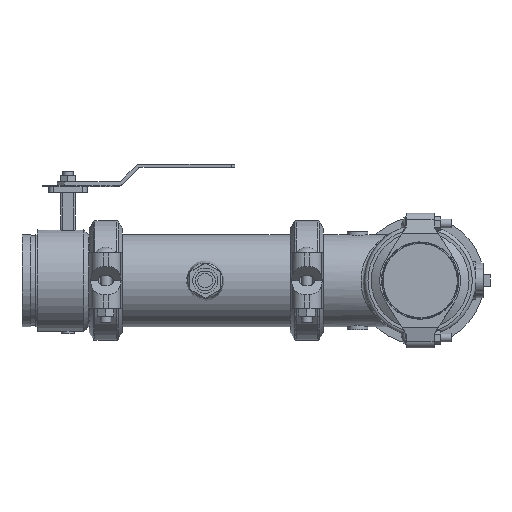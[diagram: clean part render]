
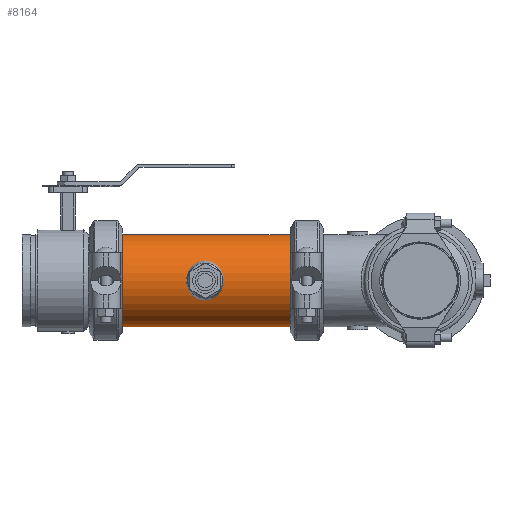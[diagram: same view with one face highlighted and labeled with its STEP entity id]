
A CAD part, left-side view. The second image highlights one B-rep face of the part: STEP entity #8164.
In plain terms, the highlighted cylindrical face has radius 84.138 mm (diameter 168.275 mm), a full revolution.
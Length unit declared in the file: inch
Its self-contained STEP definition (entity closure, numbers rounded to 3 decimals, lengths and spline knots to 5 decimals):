
#701=FACE_OUTER_BOUND('',#1204,.T.);
#1204=EDGE_LOOP('',(#6024,#6025,#6026,#6027,#6028,#6029));
#1752=CIRCLE('',#9012,3.3125);
#1753=CIRCLE('',#9013,3.3125);
#1754=CIRCLE('',#9015,3.3125);
#1755=CIRCLE('',#9016,3.3125);
#2218=LINE('',#13978,#2807);
#2807=VECTOR('',#10594,3.3125);
#3509=VERTEX_POINT('',#13969);
#3510=VERTEX_POINT('',#13970);
#3511=VERTEX_POINT('',#13974);
#3512=VERTEX_POINT('',#13975);
#4420=EDGE_CURVE('',#3509,#3510,#1752,.T.);
#4421=EDGE_CURVE('',#3510,#3509,#1753,.T.);
#4422=EDGE_CURVE('',#3511,#3512,#1754,.T.);
#4423=EDGE_CURVE('',#3512,#3511,#1755,.T.);
#4424=EDGE_CURVE('',#3512,#3510,#2218,.T.);
#6024=ORIENTED_EDGE('',*,*,#4422,.F.);
#6025=ORIENTED_EDGE('',*,*,#4423,.F.);
#6026=ORIENTED_EDGE('',*,*,#4424,.T.);
#6027=ORIENTED_EDGE('',*,*,#4421,.T.);
#6028=ORIENTED_EDGE('',*,*,#4420,.T.);
#6029=ORIENTED_EDGE('',*,*,#4424,.F.);
#7443=CYLINDRICAL_SURFACE('',#9014,3.3125);
#8164=ADVANCED_FACE('',(#701),#7443,.T.);
#9012=AXIS2_PLACEMENT_3D('',#13971,#10584,#10585);
#9013=AXIS2_PLACEMENT_3D('',#13972,#10586,#10587);
#9014=AXIS2_PLACEMENT_3D('',#13973,#10588,#10589);
#9015=AXIS2_PLACEMENT_3D('',#13976,#10590,#10591);
#9016=AXIS2_PLACEMENT_3D('',#13977,#10592,#10593);
#10584=DIRECTION('center_axis',(0.,-1.,0.));
#10585=DIRECTION('ref_axis',(1.,0.,0.));
#10586=DIRECTION('center_axis',(0.,-1.,0.));
#10587=DIRECTION('ref_axis',(1.,0.,0.));
#10588=DIRECTION('center_axis',(0.,-1.,0.));
#10589=DIRECTION('ref_axis',(1.,0.,0.));
#10590=DIRECTION('center_axis',(0.,-1.,0.));
#10591=DIRECTION('ref_axis',(1.,0.,0.));
#10592=DIRECTION('center_axis',(0.,-1.,0.));
#10593=DIRECTION('ref_axis',(1.,0.,0.));
#10594=DIRECTION('',(0.,1.,0.));
#13969=CARTESIAN_POINT('',(3.3125,6.09,0.));
#13970=CARTESIAN_POINT('',(-3.3125,6.09,0.));
#13971=CARTESIAN_POINT('Origin',(0.,6.09,0.));
#13972=CARTESIAN_POINT('Origin',(0.,6.09,0.));
#13973=CARTESIAN_POINT('Origin',(0.,0.,
0.));
#13974=CARTESIAN_POINT('',(3.3125,-6.09,0.));
#13975=CARTESIAN_POINT('',(-3.3125,-6.09,0.));
#13976=CARTESIAN_POINT('Origin',(0.,-6.09,0.));
#13977=CARTESIAN_POINT('Origin',(0.,-6.09,0.));
#13978=CARTESIAN_POINT('',(-3.3125,0.,0.));
